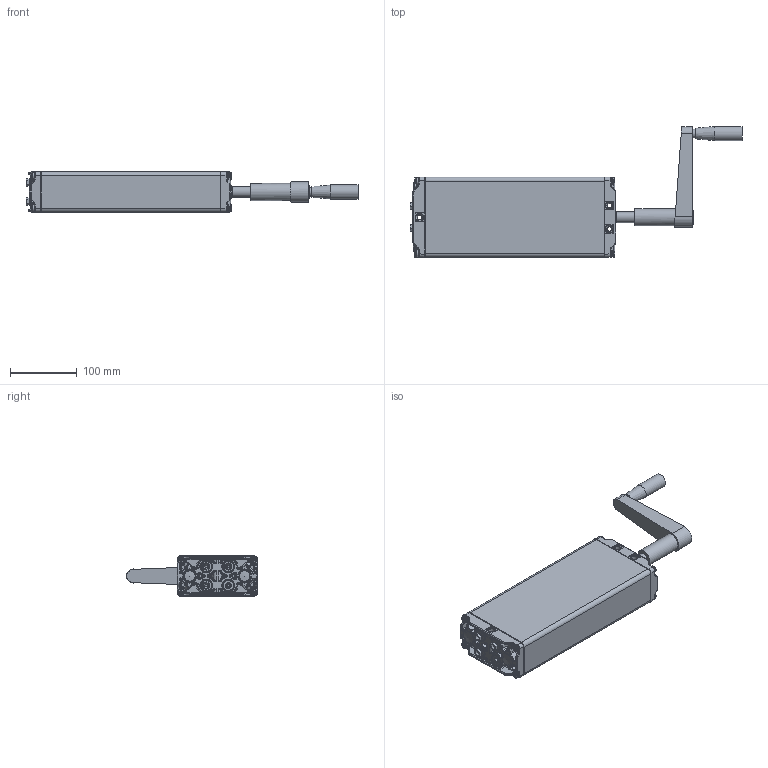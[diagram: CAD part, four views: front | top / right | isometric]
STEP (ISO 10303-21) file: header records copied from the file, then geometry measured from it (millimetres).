
FILE_DESCRIPTION(/* description */ ('Unknown'),/* implementation_level */ '2;1');
FILE_NAME(/* name */ '312.20021 Pumpe PB 3815 W mit Handkurbel',/* time_stamp */ '2017-09-27T11:24:47+02:00',/* author */ ('Unknown'),/* organization */ ('Unknown'),/* preprocessor_version */ 'ST-DEVELOPER v16.7',/* originating_system */ 'DEX',/* authorisation */ $);
FILE_SCHEMA (('AUTOMOTIVE_DESIGN {1 0 10303 214 3 1 1}'));
Products named in the file (23): 102.20021; 115.00031; 125.00045; 115.00008; 142.00021; 125.00021; 113.00005; 128.00001; 125.00052; 126.00013; 125.00053; 142.00077; 127.00014; Handgriff; 142.00013; 125.00141; 115.00140; 126.00006; 122.00040; 119.00041; 126.00005; 142.00057; 142.00110
Assembly tree (33 placements, depth 3):
  102.20021
    115.00031  x3
      125.00045
      115.00008
      142.00021
      125.00021
    113.00005
      128.00001
      125.00052
      126.00013
      125.00053
      142.00077
      127.00014
      Handgriff
    142.00013  x8
    125.00045
    125.00141
    115.00140
      126.00006
      122.00040
    119.00041
    126.00005
    142.00057
    142.00110  x2
Bounding box: 495.72 x 195.5 x 60.3 mm (x, y, z)
Volume: 583809.8 mm3; surface area: 335951.9 mm2
Topology: 33 solids, 33 shells, 2586 faces, 6103 edges, 3517 vertices
Faces by surface type: plane 717, bspline 707, cylinder 579, cone 350, torus 174, sphere 59
Full cylindrical faces by diameter (mm): 3.5 x4, 4 x2, 4.1 x3, 4.2 x5, 4.917 x2, 5 x8, 6 x1, 6.917 x8, 8 x8, 9.8 x8, 10 x4, 10.4 x1, 12.8 x1, 13 x1, 14 x1, 14.4 x4, 15.8 x2, 16 x2, 17 x1, 17.3 x4, 17.9 x8, 18 x3, 19 x1, 20.6 x1, 21 x1, 21.2 x2, 22 x1, 25.5 x1
Entity records: 101853 total; most frequent: CARTESIAN_POINT 55774, ORIENTED_EDGE 8588, DIRECTION 7029, EDGE_CURVE 4294, AXIS2_PLACEMENT_3D 2826, VERTEX_POINT 2650, FACE_BOUND 2142, EDGE_LOOP 2139
